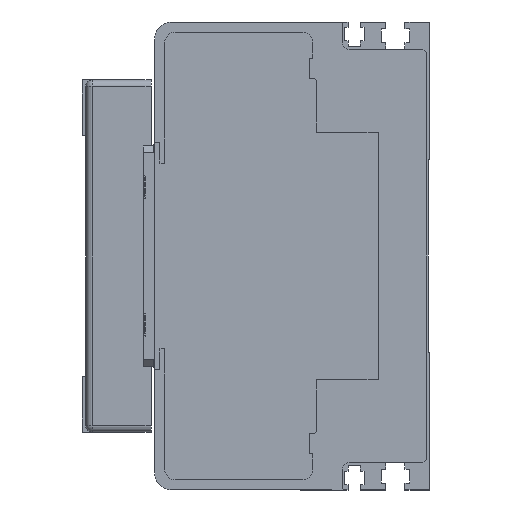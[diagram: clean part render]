
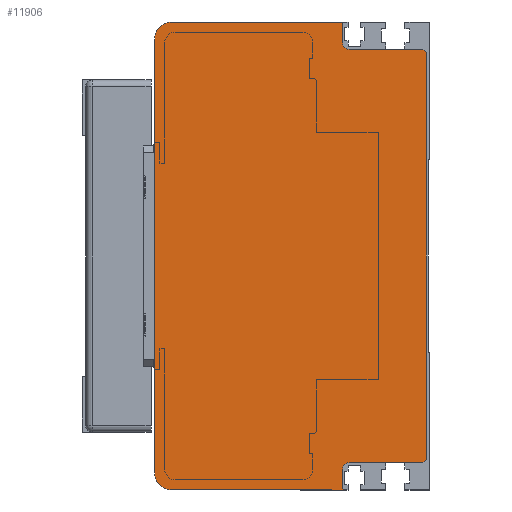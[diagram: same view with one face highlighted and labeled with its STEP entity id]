
A CAD part, left-side view. The second image highlights one B-rep face of the part: STEP entity #11906.
In plain terms, the highlighted planar face has unit normal (-1, 0, 0) as drawn and (0, 0, -1) by its records, which use the part's own axes.
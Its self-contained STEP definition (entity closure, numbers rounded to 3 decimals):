
#957=FACE_OUTER_BOUND('',#1678,.T.);
#1678=EDGE_LOOP('',(#8277,#8278,#8279,#8280,#8281,#8282,#8283,#8284,#8285,
#8286,#8287,#8288,#8289,#8290));
#2456=CIRCLE('',#12766,2.);
#2457=CIRCLE('',#12767,5.);
#2458=CIRCLE('',#12768,5.);
#2459=CIRCLE('',#12769,2.);
#2734=LINE('',#16943,#3877);
#2735=LINE('',#16945,#3878);
#2736=LINE('',#16947,#3879);
#2737=LINE('',#16949,#3880);
#2738=LINE('',#16953,#3881);
#2739=LINE('',#16955,#3882);
#2740=LINE('',#16959,#3883);
#2741=LINE('',#16963,#3884);
#2742=LINE('',#16965,#3885);
#2743=LINE('',#16968,#3886);
#3877=VECTOR('',#13969,1.414);
#3878=VECTOR('',#13970,118.);
#3879=VECTOR('',#13971,1.414);
#3880=VECTOR('',#13972,21.3);
#3881=VECTOR('',#13975,6.);
#3882=VECTOR('',#13976,49.7);
#3883=VECTOR('',#13979,126.);
#3884=VECTOR('',#13982,49.7);
#3885=VECTOR('',#13983,6.);
#3886=VECTOR('',#13986,21.3);
#5090=VERTEX_POINT('',#16941);
#5091=VERTEX_POINT('',#16942);
#5092=VERTEX_POINT('',#16944);
#5093=VERTEX_POINT('',#16946);
#5094=VERTEX_POINT('',#16948);
#5095=VERTEX_POINT('',#16950);
#5096=VERTEX_POINT('',#16952);
#5097=VERTEX_POINT('',#16954);
#5098=VERTEX_POINT('',#16956);
#5099=VERTEX_POINT('',#16958);
#5100=VERTEX_POINT('',#16960);
#5101=VERTEX_POINT('',#16962);
#5102=VERTEX_POINT('',#16964);
#5103=VERTEX_POINT('',#16966);
#6340=EDGE_CURVE('',#5090,#5091,#2734,.T.);
#6341=EDGE_CURVE('',#5090,#5092,#2735,.T.);
#6342=EDGE_CURVE('',#5093,#5092,#2736,.T.);
#6343=EDGE_CURVE('',#5093,#5094,#2737,.T.);
#6344=EDGE_CURVE('',#5095,#5094,#2456,.T.);
#6345=EDGE_CURVE('',#5095,#5096,#2738,.T.);
#6346=EDGE_CURVE('',#5096,#5097,#2739,.T.);
#6347=EDGE_CURVE('',#5097,#5098,#2457,.T.);
#6348=EDGE_CURVE('',#5098,#5099,#2740,.T.);
#6349=EDGE_CURVE('',#5099,#5100,#2458,.T.);
#6350=EDGE_CURVE('',#5100,#5101,#2741,.T.);
#6351=EDGE_CURVE('',#5101,#5102,#2742,.T.);
#6352=EDGE_CURVE('',#5103,#5102,#2459,.T.);
#6353=EDGE_CURVE('',#5103,#5091,#2743,.T.);
#8277=ORIENTED_EDGE('',*,*,#6340,.F.);
#8278=ORIENTED_EDGE('',*,*,#6341,.T.);
#8279=ORIENTED_EDGE('',*,*,#6342,.F.);
#8280=ORIENTED_EDGE('',*,*,#6343,.T.);
#8281=ORIENTED_EDGE('',*,*,#6344,.F.);
#8282=ORIENTED_EDGE('',*,*,#6345,.T.);
#8283=ORIENTED_EDGE('',*,*,#6346,.T.);
#8284=ORIENTED_EDGE('',*,*,#6347,.T.);
#8285=ORIENTED_EDGE('',*,*,#6348,.T.);
#8286=ORIENTED_EDGE('',*,*,#6349,.T.);
#8287=ORIENTED_EDGE('',*,*,#6350,.T.);
#8288=ORIENTED_EDGE('',*,*,#6351,.T.);
#8289=ORIENTED_EDGE('',*,*,#6352,.F.);
#8290=ORIENTED_EDGE('',*,*,#6353,.T.);
#11320=PLANE('',#12765);
#11906=ADVANCED_FACE('',(#957),#11320,.T.);
#12765=AXIS2_PLACEMENT_3D('',#16940,#13967,#13968);
#12766=AXIS2_PLACEMENT_3D('',#16951,#13973,#13974);
#12767=AXIS2_PLACEMENT_3D('',#16957,#13977,#13978);
#12768=AXIS2_PLACEMENT_3D('',#16961,#13980,#13981);
#12769=AXIS2_PLACEMENT_3D('',#16967,#13984,#13985);
#13967=DIRECTION('center_axis',(0.,0.,-1.));
#13968=DIRECTION('ref_axis',(0.,-1.,0.));
#13969=DIRECTION('',(0.707,0.707,0.));
#13970=DIRECTION('',(-1.,0.,0.));
#13971=DIRECTION('',(0.707,-0.707,0.));
#13972=DIRECTION('',(0.,1.,0.));
#13973=DIRECTION('center_axis',(0.,0.,-1.));
#13974=DIRECTION('ref_axis',(0.707,0.707,0.));
#13975=DIRECTION('',(-1.,0.,0.));
#13976=DIRECTION('',(0.,1.,0.));
#13977=DIRECTION('center_axis',(0.,0.,-1.));
#13978=DIRECTION('ref_axis',(-1.,0.,0.));
#13979=DIRECTION('',(1.,0.,0.));
#13980=DIRECTION('center_axis',(0.,0.,-1.));
#13981=DIRECTION('ref_axis',(0.,1.,0.));
#13982=DIRECTION('',(0.,-1.,0.));
#13983=DIRECTION('',(-1.,0.,0.));
#13984=DIRECTION('center_axis',(0.,0.,-1.));
#13985=DIRECTION('ref_axis',(-0.707,0.707,0.));
#13986=DIRECTION('',(0.,-1.,0.));
#16940=CARTESIAN_POINT('Origin',(-29.,-60.,-600.));
#16941=CARTESIAN_POINT('',(66.,-74.,-600.));
#16942=CARTESIAN_POINT('',(67.,-73.,-600.));
#16943=CARTESIAN_POINT('',(46.,-94.,-600.));
#16944=CARTESIAN_POINT('',(-52.,-74.,-600.));
#16945=CARTESIAN_POINT('',(-11.,-74.,-600.));
#16946=CARTESIAN_POINT('',(-53.,-73.,-600.));
#16947=CARTESIAN_POINT('',(-50.,-76.,-600.));
#16948=CARTESIAN_POINT('',(-53.,-51.7,-600.));
#16949=CARTESIAN_POINT('',(-53.,-67.,-600.));
#16950=CARTESIAN_POINT('',(-55.,-49.7,-600.));
#16951=CARTESIAN_POINT('Origin',(-55.,-51.7,-600.));
#16952=CARTESIAN_POINT('',(-61.,-49.7,-600.));
#16953=CARTESIAN_POINT('',(-41.,-49.7,-600.));
#16954=CARTESIAN_POINT('',(-61.,0.,-600.));
#16955=CARTESIAN_POINT('',(-61.,-51.25,-600.));
#16956=CARTESIAN_POINT('',(-56.,5.,-600.));
#16957=CARTESIAN_POINT('Origin',(-56.,0.,
-600.));
#16958=CARTESIAN_POINT('',(70.,5.,-600.));
#16959=CARTESIAN_POINT('',(-56.,5.,-600.));
#16960=CARTESIAN_POINT('',(75.,0.,-600.));
#16961=CARTESIAN_POINT('Origin',(70.,0.,
-600.));
#16962=CARTESIAN_POINT('',(75.,-49.7,-600.));
#16963=CARTESIAN_POINT('',(75.,0.,-600.));
#16964=CARTESIAN_POINT('',(69.,-49.7,-600.));
#16965=CARTESIAN_POINT('',(19.,-49.7,-600.));
#16966=CARTESIAN_POINT('',(67.,-51.7,-600.));
#16967=CARTESIAN_POINT('Origin',(69.,-51.7,-600.));
#16968=CARTESIAN_POINT('',(67.,-67.,-600.));
